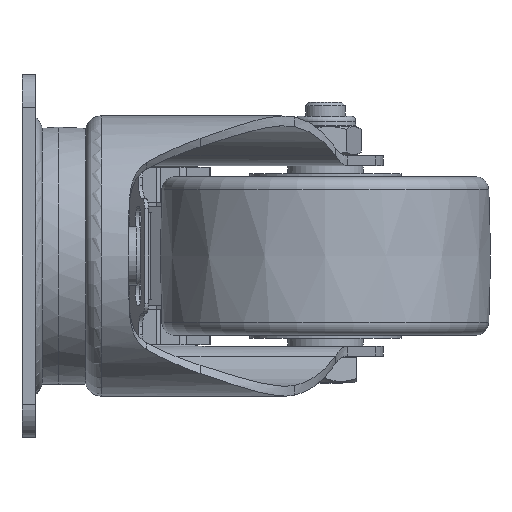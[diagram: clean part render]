
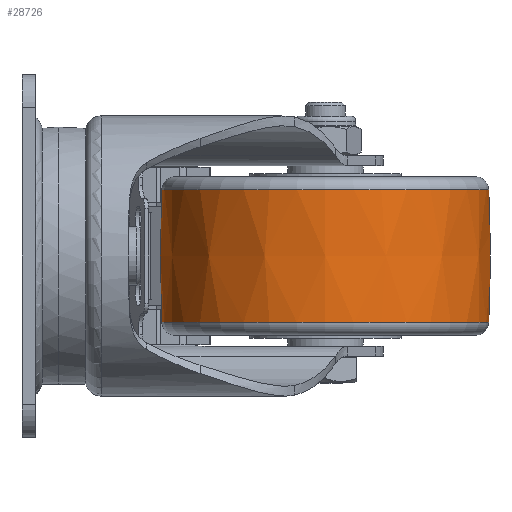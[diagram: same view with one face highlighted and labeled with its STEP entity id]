
A CAD part, left-side view. The second image highlights one B-rep face of the part: STEP entity #28726.
In plain terms, the highlighted free-form (B-spline) face has degree [2, 2] with [3, 9] control points.
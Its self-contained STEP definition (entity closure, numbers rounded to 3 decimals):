
#33=(
BOUNDED_SURFACE()
B_SPLINE_SURFACE(2,2,((#50976,#50977,#50978,#50979,#50980,#50981,#50982,
#50983,#50984),(#50985,#50986,#50987,#50988,#50989,#50990,#50991,#50992,
#50993),(#50994,#50995,#50996,#50997,#50998,#50999,#51000,#51001,#51002)),
 .UNSPECIFIED.,.F.,.T.,.F.)
B_SPLINE_SURFACE_WITH_KNOTS((3,3),(3,2,2,2,3),(-0.04,0.04),
(-3.142,-1.571,0.,1.571,3.142),
 .UNSPECIFIED.)
GEOMETRIC_REPRESENTATION_ITEM()
RATIONAL_B_SPLINE_SURFACE(((1.,0.707,1.,0.707,1.,
0.707,1.,0.707,1.),(0.999,0.707,
0.999,0.707,0.999,0.707,
0.999,0.707,0.999),(1.,0.707,
1.,0.707,1.,0.707,1.,0.707,1.)))
REPRESENTATION_ITEM('')
SURFACE()
);
#7412=FACE_OUTER_BOUND('',#9106,.T.);
#9106=EDGE_LOOP('',(#25222,#25223,#25224,#25225));
#10175=CIRCLE('',#30715,49.593);
#10176=CIRCLE('',#30716,500.);
#10177=CIRCLE('',#30717,49.593);
#13490=VERTEX_POINT('',#50973);
#13491=VERTEX_POINT('',#51003);
#17499=EDGE_CURVE('',#13490,#13490,#10175,.T.);
#17500=EDGE_CURVE('',#13490,#13491,#10176,.T.);
#17501=EDGE_CURVE('',#13491,#13491,#10177,.T.);
#25222=ORIENTED_EDGE('',*,*,#17499,.F.);
#25223=ORIENTED_EDGE('',*,*,#17500,.T.);
#25224=ORIENTED_EDGE('',*,*,#17501,.T.);
#25225=ORIENTED_EDGE('',*,*,#17500,.F.);
#28726=ADVANCED_FACE('',(#7412),#33,.F.);
#30715=AXIS2_PLACEMENT_3D('',#50975,#36062,#36063);
#30716=AXIS2_PLACEMENT_3D('',#51004,#36064,#36065);
#30717=AXIS2_PLACEMENT_3D('',#51005,#36066,#36067);
#36062=DIRECTION('center_axis',(0.,0.,
1.));
#36063=DIRECTION('ref_axis',(0.,1.,0.));
#36064=DIRECTION('center_axis',(1.,0.,0.));
#36065=DIRECTION('ref_axis',(0.,-1.,0.));
#36066=DIRECTION('center_axis',(0.,0.,
1.));
#36067=DIRECTION('ref_axis',(0.,1.,0.));
#50973=CARTESIAN_POINT('',(57.5,-141.595,20.161));
#50975=CARTESIAN_POINT('Origin',(57.5,-92.001,20.161));
#50976=CARTESIAN_POINT('Ctrl Pts',(57.5,-141.595,-20.161));
#50977=CARTESIAN_POINT('Ctrl Pts',(107.093,-141.595,-20.161));
#50978=CARTESIAN_POINT('Ctrl Pts',(107.093,-92.001,-20.161));
#50979=CARTESIAN_POINT('Ctrl Pts',(107.093,-42.408,-20.161));
#50980=CARTESIAN_POINT('Ctrl Pts',(57.5,-42.408,-20.161));
#50981=CARTESIAN_POINT('Ctrl Pts',(7.907,-42.408,-20.161));
#50982=CARTESIAN_POINT('Ctrl Pts',(7.907,-92.001,-20.161));
#50983=CARTESIAN_POINT('Ctrl Pts',(7.907,-141.595,-20.161));
#50984=CARTESIAN_POINT('Ctrl Pts',(57.5,-141.595,-20.161));
#50985=CARTESIAN_POINT('Ctrl Pts',(57.5,-142.408,0.));
#50986=CARTESIAN_POINT('Ctrl Pts',(107.907,-142.408,0.));
#50987=CARTESIAN_POINT('Ctrl Pts',(107.907,-92.001,0.));
#50988=CARTESIAN_POINT('Ctrl Pts',(107.907,-41.594,0.));
#50989=CARTESIAN_POINT('Ctrl Pts',(57.5,-41.594,0.));
#50990=CARTESIAN_POINT('Ctrl Pts',(7.093,-41.594,0.));
#50991=CARTESIAN_POINT('Ctrl Pts',(7.093,-92.001,0.));
#50992=CARTESIAN_POINT('Ctrl Pts',(7.093,-142.408,0.));
#50993=CARTESIAN_POINT('Ctrl Pts',(57.5,-142.408,0.));
#50994=CARTESIAN_POINT('Ctrl Pts',(57.5,-141.595,20.161));
#50995=CARTESIAN_POINT('Ctrl Pts',(107.093,-141.595,20.161));
#50996=CARTESIAN_POINT('Ctrl Pts',(107.093,-92.001,20.161));
#50997=CARTESIAN_POINT('Ctrl Pts',(107.093,-42.408,20.161));
#50998=CARTESIAN_POINT('Ctrl Pts',(57.5,-42.408,20.161));
#50999=CARTESIAN_POINT('Ctrl Pts',(7.907,-42.408,20.161));
#51000=CARTESIAN_POINT('Ctrl Pts',(7.907,-92.001,20.161));
#51001=CARTESIAN_POINT('Ctrl Pts',(7.907,-141.595,20.161));
#51002=CARTESIAN_POINT('Ctrl Pts',(57.5,-141.595,20.161));
#51003=CARTESIAN_POINT('',(57.5,-141.595,-20.161));
#51004=CARTESIAN_POINT('Origin',(57.5,357.999,0.));
#51005=CARTESIAN_POINT('Origin',(57.5,-92.001,-20.161));
